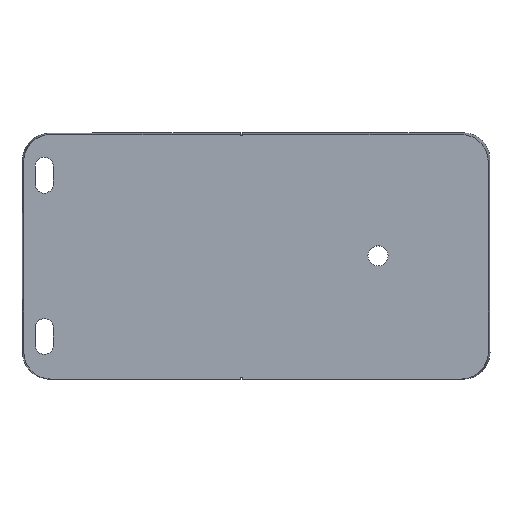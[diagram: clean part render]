
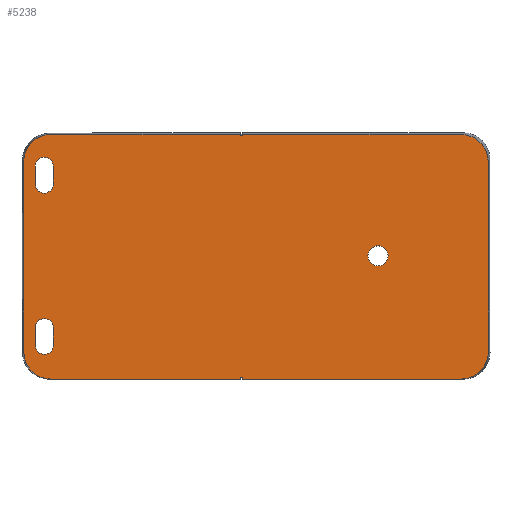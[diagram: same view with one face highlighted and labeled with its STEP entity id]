
A CAD part, top view. The second image highlights one B-rep face of the part: STEP entity #5238.
In plain terms, the highlighted planar face has unit normal (0, 0, 1).
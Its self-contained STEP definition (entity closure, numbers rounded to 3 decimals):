
#1590=ELLIPSE('',#23885,6.002,6.);
#1591=ELLIPSE('',#23886,6.004,6.);
#1592=ELLIPSE('',#23887,6.004,6.);
#1593=ELLIPSE('',#23888,6.002,6.);
#1600=LINE('',#33465,#3165);
#1601=LINE('',#33470,#3166);
#1602=LINE('',#33473,#3167);
#1603=LINE('',#33478,#3168);
#1604=LINE('',#33481,#3169);
#1605=LINE('',#33484,#3170);
#1606=LINE('',#33486,#3171);
#1607=LINE('',#33490,#3172);
#1608=LINE('',#33494,#3173);
#1609=LINE('',#33496,#3174);
#1610=LINE('',#33498,#3175);
#1611=LINE('',#33500,#3176);
#1612=LINE('',#33502,#3177);
#1613=LINE('',#33506,#3178);
#1614=LINE('',#33510,#3179);
#1615=LINE('',#33512,#3180);
#3165=VECTOR('',#26560,1.);
#3166=VECTOR('',#26563,1.);
#3167=VECTOR('',#26566,1.);
#3168=VECTOR('',#26569,1.);
#3169=VECTOR('',#26572,1.);
#3170=VECTOR('',#26573,1.);
#3171=VECTOR('',#26574,1.);
#3172=VECTOR('',#26577,1.);
#3173=VECTOR('',#26580,1.);
#3174=VECTOR('',#26581,1.);
#3175=VECTOR('',#26582,1.);
#3176=VECTOR('',#26583,1.);
#3177=VECTOR('',#26584,1.);
#3178=VECTOR('',#26587,1.);
#3179=VECTOR('',#26590,1.);
#3180=VECTOR('',#26591,1.);
#5238=ADVANCED_FACE('',(#7477,#7478,#7479,#7480),#6712,.T.);
#6712=PLANE('',#23890);
#7477=FACE_BOUND('',#9040,.T.);
#7478=FACE_BOUND('',#9041,.T.);
#7479=FACE_BOUND('',#9042,.T.);
#7480=FACE_BOUND('',#9043,.T.);
#9040=EDGE_LOOP('',(#11377,#11378,#11379,#11380));
#9041=EDGE_LOOP('',(#11381,#11382,#11383,#11384));
#9042=EDGE_LOOP('',(#11385,#11386,#11387,#11388,#11389,#11390,#11391,#11392,
#11393,#11394,#11395,#11396,#11397,#11398,#11399,#11400));
#9043=EDGE_LOOP('',(#11401));
#11377=ORIENTED_EDGE('',*,*,#19655,.T.);
#11378=ORIENTED_EDGE('',*,*,#19656,.T.);
#11379=ORIENTED_EDGE('',*,*,#19657,.T.);
#11380=ORIENTED_EDGE('',*,*,#19658,.T.);
#11381=ORIENTED_EDGE('',*,*,#19659,.T.);
#11382=ORIENTED_EDGE('',*,*,#19660,.T.);
#11383=ORIENTED_EDGE('',*,*,#19661,.T.);
#11384=ORIENTED_EDGE('',*,*,#19662,.T.);
#11385=ORIENTED_EDGE('',*,*,#19663,.F.);
#11386=ORIENTED_EDGE('',*,*,#19664,.F.);
#11387=ORIENTED_EDGE('',*,*,#19665,.F.);
#11388=ORIENTED_EDGE('',*,*,#19666,.T.);
#11389=ORIENTED_EDGE('',*,*,#19667,.F.);
#11390=ORIENTED_EDGE('',*,*,#19668,.T.);
#11391=ORIENTED_EDGE('',*,*,#19669,.F.);
#11392=ORIENTED_EDGE('',*,*,#19670,.F.);
#11393=ORIENTED_EDGE('',*,*,#19671,.F.);
#11394=ORIENTED_EDGE('',*,*,#19672,.T.);
#11395=ORIENTED_EDGE('',*,*,#19673,.F.);
#11396=ORIENTED_EDGE('',*,*,#19674,.T.);
#11397=ORIENTED_EDGE('',*,*,#19675,.F.);
#11398=ORIENTED_EDGE('',*,*,#19676,.T.);
#11399=ORIENTED_EDGE('',*,*,#19677,.F.);
#11400=ORIENTED_EDGE('',*,*,#19678,.T.);
#11401=ORIENTED_EDGE('',*,*,#19679,.F.);
#17401=VERTEX_POINT('',#33466);
#17402=VERTEX_POINT('',#33467);
#17403=VERTEX_POINT('',#33469);
#17404=VERTEX_POINT('',#33471);
#17405=VERTEX_POINT('',#33474);
#17406=VERTEX_POINT('',#33475);
#17407=VERTEX_POINT('',#33477);
#17408=VERTEX_POINT('',#33479);
#17409=VERTEX_POINT('',#33482);
#17410=VERTEX_POINT('',#33483);
#17411=VERTEX_POINT('',#33485);
#17412=VERTEX_POINT('',#33487);
#17413=VERTEX_POINT('',#33489);
#17414=VERTEX_POINT('',#33491);
#17415=VERTEX_POINT('',#33493);
#17416=VERTEX_POINT('',#33495);
#17417=VERTEX_POINT('',#33497);
#17418=VERTEX_POINT('',#33499);
#17419=VERTEX_POINT('',#33501);
#17420=VERTEX_POINT('',#33503);
#17421=VERTEX_POINT('',#33505);
#17422=VERTEX_POINT('',#33507);
#17423=VERTEX_POINT('',#33509);
#17424=VERTEX_POINT('',#33511);
#17425=VERTEX_POINT('',#33514);
#19655=EDGE_CURVE('',#17401,#17402,#1600,.T.);
#19656=EDGE_CURVE('',#17402,#17403,#22668,.T.);
#19657=EDGE_CURVE('',#17403,#17404,#1601,.T.);
#19658=EDGE_CURVE('',#17404,#17401,#22669,.T.);
#19659=EDGE_CURVE('',#17405,#17406,#1602,.T.);
#19660=EDGE_CURVE('',#17406,#17407,#22670,.T.);
#19661=EDGE_CURVE('',#17407,#17408,#1603,.T.);
#19662=EDGE_CURVE('',#17408,#17405,#22671,.T.);
#19663=EDGE_CURVE('',#17409,#17410,#1604,.T.);
#19664=EDGE_CURVE('',#17411,#17409,#1605,.T.);
#19665=EDGE_CURVE('',#17412,#17411,#1606,.T.);
#19666=EDGE_CURVE('',#17412,#17413,#1590,.T.);
#19667=EDGE_CURVE('',#17414,#17413,#1607,.T.);
#19668=EDGE_CURVE('',#17414,#17415,#1591,.T.);
#19669=EDGE_CURVE('',#17416,#17415,#1608,.T.);
#19670=EDGE_CURVE('',#17417,#17416,#1609,.T.);
#19671=EDGE_CURVE('',#17418,#17417,#1610,.T.);
#19672=EDGE_CURVE('',#17418,#17419,#1611,.T.);
#19673=EDGE_CURVE('',#17420,#17419,#1612,.T.);
#19674=EDGE_CURVE('',#17420,#17421,#1592,.T.);
#19675=EDGE_CURVE('',#17422,#17421,#1613,.T.);
#19676=EDGE_CURVE('',#17422,#17423,#1593,.T.);
#19677=EDGE_CURVE('',#17424,#17423,#1614,.T.);
#19678=EDGE_CURVE('',#17424,#17410,#1615,.T.);
#19679=EDGE_CURVE('',#17425,#17425,#22672,.T.);
#22668=CIRCLE('',#23881,2.);
#22669=CIRCLE('',#23882,2.);
#22670=CIRCLE('',#23883,2.);
#22671=CIRCLE('',#23884,2.);
#22672=CIRCLE('',#23889,2.25);
#23881=AXIS2_PLACEMENT_3D('',#33468,#26561,#26562);
#23882=AXIS2_PLACEMENT_3D('',#33472,#26564,#26565);
#23883=AXIS2_PLACEMENT_3D('',#33476,#26567,#26568);
#23884=AXIS2_PLACEMENT_3D('',#33480,#26570,#26571);
#23885=AXIS2_PLACEMENT_3D('',#33488,#26575,#26576);
#23886=AXIS2_PLACEMENT_3D('',#33492,#26578,#26579);
#23887=AXIS2_PLACEMENT_3D('',#33504,#26585,#26586);
#23888=AXIS2_PLACEMENT_3D('',#33508,#26588,#26589);
#23889=AXIS2_PLACEMENT_3D('',#33513,#26592,#26593);
#23890=AXIS2_PLACEMENT_3D('',#33515,#26594,#26595);
#26560=DIRECTION('',(0.,1.,0.));
#26561=DIRECTION('',(0.,0.,-1.));
#26562=DIRECTION('',(0.,1.,0.));
#26563=DIRECTION('',(0.,-1.,0.));
#26564=DIRECTION('',(0.,0.,-1.));
#26565=DIRECTION('',(0.,1.,0.));
#26566=DIRECTION('',(0.,1.,0.));
#26567=DIRECTION('',(0.,0.,-1.));
#26568=DIRECTION('',(0.,1.,0.));
#26569=DIRECTION('',(0.,-1.,0.));
#26570=DIRECTION('',(0.,0.,-1.));
#26571=DIRECTION('',(0.,1.,0.));
#26572=DIRECTION('',(-1.,0.,0.));
#26573=DIRECTION('',(0.,1.,0.));
#26574=DIRECTION('',(-1.,0.,0.));
#26575=DIRECTION('',(0.,0.,1.));
#26576=DIRECTION('',(1.,0.,0.));
#26577=DIRECTION('',(0.,-1.,0.));
#26578=DIRECTION('',(0.,0.,1.));
#26579=DIRECTION('',(-0.707,-0.707,0.));
#26580=DIRECTION('',(1.,0.,0.));
#26581=DIRECTION('',(0.,1.,0.));
#26582=DIRECTION('',(1.,0.,0.));
#26583=DIRECTION('',(0.,1.,0.));
#26584=DIRECTION('',(1.,0.,0.));
#26585=DIRECTION('',(0.,0.,1.));
#26586=DIRECTION('',(0.707,-0.707,0.));
#26587=DIRECTION('',(0.,1.,0.));
#26588=DIRECTION('',(0.,0.,1.));
#26589=DIRECTION('',(-1.,0.,0.));
#26590=DIRECTION('',(-1.,0.,0.));
#26591=DIRECTION('',(0.,1.,0.));
#26592=DIRECTION('',(0.,0.,1.));
#26593=DIRECTION('',(1.,0.,0.));
#26594=DIRECTION('',(0.,0.,1.));
#26595=DIRECTION('',(1.,0.,0.));
#33465=CARTESIAN_POINT('',(3.,43.5,16.));
#33466=CARTESIAN_POINT('',(3.,43.5,16.));
#33467=CARTESIAN_POINT('',(3.,47.5,16.));
#33468=CARTESIAN_POINT('',(5.,47.5,16.));
#33469=CARTESIAN_POINT('',(7.,47.5,16.));
#33470=CARTESIAN_POINT('',(7.,47.5,16.));
#33471=CARTESIAN_POINT('',(7.,43.5,16.));
#33472=CARTESIAN_POINT('',(5.,43.5,16.));
#33473=CARTESIAN_POINT('',(3.,7.5,16.));
#33474=CARTESIAN_POINT('',(3.,7.5,16.));
#33475=CARTESIAN_POINT('',(3.,11.5,16.));
#33476=CARTESIAN_POINT('',(5.,11.5,16.));
#33477=CARTESIAN_POINT('',(7.,11.5,16.));
#33478=CARTESIAN_POINT('',(7.,11.5,16.));
#33479=CARTESIAN_POINT('',(7.,7.5,16.));
#33480=CARTESIAN_POINT('',(5.,7.5,16.));
#33481=CARTESIAN_POINT('',(49.25,0.3,16.));
#33482=CARTESIAN_POINT('',(49.25,0.3,16.));
#33483=CARTESIAN_POINT('',(48.75,0.3,16.));
#33484=CARTESIAN_POINT('',(49.25,0.3,16.));
#33485=CARTESIAN_POINT('',(49.25,0.,16.));
#33486=CARTESIAN_POINT('',(0.,0.,16.));
#33487=CARTESIAN_POINT('',(98.079,0.,16.));
#33488=CARTESIAN_POINT('',(98.079,6.,16.));
#33489=CARTESIAN_POINT('',(104.081,6.,16.));
#33490=CARTESIAN_POINT('',(104.081,0.,16.));
#33491=CARTESIAN_POINT('',(104.081,48.583,16.));
#33492=CARTESIAN_POINT('',(98.079,48.579,16.));
#33493=CARTESIAN_POINT('',(98.083,54.581,16.));
#33494=CARTESIAN_POINT('',(0.,54.581,16.));
#33495=CARTESIAN_POINT('',(49.25,54.581,16.));
#33496=CARTESIAN_POINT('',(49.25,54.7,16.));
#33497=CARTESIAN_POINT('',(49.25,54.281,16.));
#33498=CARTESIAN_POINT('',(54.5,54.281,16.));
#33499=CARTESIAN_POINT('',(48.75,54.281,16.));
#33500=CARTESIAN_POINT('',(48.75,54.7,16.));
#33501=CARTESIAN_POINT('',(48.75,54.581,16.));
#33502=CARTESIAN_POINT('',(0.,54.581,16.));
#33503=CARTESIAN_POINT('',(6.417,54.581,16.));
#33504=CARTESIAN_POINT('',(6.421,48.579,16.));
#33505=CARTESIAN_POINT('',(0.419,48.583,16.));
#33506=CARTESIAN_POINT('',(0.419,0.,16.));
#33507=CARTESIAN_POINT('',(0.419,6.,16.));
#33508=CARTESIAN_POINT('',(6.421,6.,16.));
#33509=CARTESIAN_POINT('',(6.421,0.,16.));
#33510=CARTESIAN_POINT('',(0.,0.,16.));
#33511=CARTESIAN_POINT('',(48.75,0.,16.));
#33512=CARTESIAN_POINT('',(48.75,0.3,16.));
#33513=CARTESIAN_POINT('',(79.5,27.5,16.));
#33514=CARTESIAN_POINT('',(81.75,27.5,16.));
#33515=CARTESIAN_POINT('',(0.,0.,16.));
